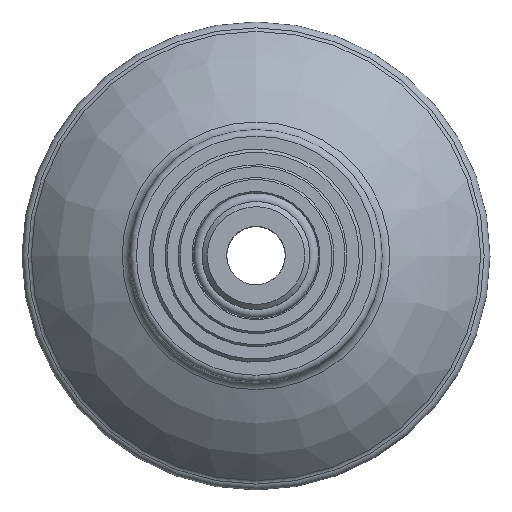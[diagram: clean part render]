
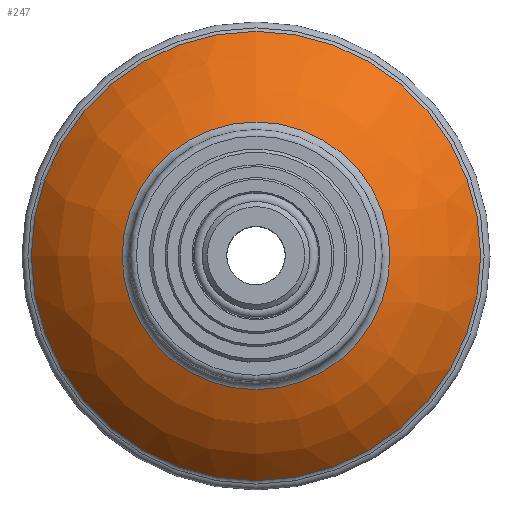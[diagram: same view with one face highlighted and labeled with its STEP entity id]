
A CAD part, top view. The second image highlights one B-rep face of the part: STEP entity #247.
In plain terms, the highlighted free-form (B-spline) face has degree [3, 3] with [4, 7] control points.
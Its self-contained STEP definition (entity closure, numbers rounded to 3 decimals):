
#247 = ADVANCED_FACE( '', ( #535, #536 ), #537, .T. );
#535 = FACE_OUTER_BOUND( '', #877, .T. );
#536 = FACE_OUTER_BOUND( '', #878, .T. );
#537 = ( BOUNDED_SURFACE(  )B_SPLINE_SURFACE( 3, 3, ( ( #881, #882, #883, #884, #885, #886, #887 ), ( #888, #889, #890, #891, #892, #893, #894 ), ( #895, #896, #897, #898, #899, #900, #901 ), ( #902, #903, #904, #905, #906, #907, #908 ) ), .UNSPECIFIED., .F., .T., .F. )B_SPLINE_SURFACE_WITH_KNOTS( ( 4, 4 ), ( 4, 3, 4 ), ( 0., 6.283 ), ( 0.667, 0.936, 1.206 ), .UNSPECIFIED. )GEOMETRIC_REPRESENTATION_ITEM(  )RATIONAL_B_SPLINE_SURFACE( ( ( 1., 0.333, 0.333, 1., 0.333, 0.333, 1. ), ( 0.976, 0.325, 0.325, 0.976, 0.325, 0.325, 0.976 ), ( 0.976, 0.325, 0.325, 0.976, 0.325, 0.325, 0.976 ), ( 1., 0.333, 0.333, 1., 0.333, 0.333, 1. ) ) )REPRESENTATION_ITEM( '' )SURFACE(  ) );
#877 = EDGE_LOOP( '', ( #1353 ) );
#878 = EDGE_LOOP( '', ( #1354 ) );
#881 = CARTESIAN_POINT( '', ( 20.59, 0., -3.808 ) );
#882 = CARTESIAN_POINT( '', ( 20.59, 41.18, -3.808 ) );
#883 = CARTESIAN_POINT( '', ( -20.59, 41.18, -3.808 ) );
#884 = CARTESIAN_POINT( '', ( -20.59, 0., -3.808 ) );
#885 = CARTESIAN_POINT( '', ( -20.59, -41.18, -3.808 ) );
#886 = CARTESIAN_POINT( '', ( 20.59, -41.18, -3.808 ) );
#887 = CARTESIAN_POINT( '', ( 20.59, 0., -3.808 ) );
#888 = CARTESIAN_POINT( '', ( 26.122, 0., -5.922 ) );
#889 = CARTESIAN_POINT( '', ( 26.122, 52.244, -5.922 ) );
#890 = CARTESIAN_POINT( '', ( -26.122, 52.244, -5.922 ) );
#891 = CARTESIAN_POINT( '', ( -26.122, 0., -5.922 ) );
#892 = CARTESIAN_POINT( '', ( -26.122, -52.244, -5.922 ) );
#893 = CARTESIAN_POINT( '', ( 26.122, -52.244, -5.922 ) );
#894 = CARTESIAN_POINT( '', ( 26.122, 0., -5.922 ) );
#895 = CARTESIAN_POINT( '', ( 30.892, 0., -9.432 ) );
#896 = CARTESIAN_POINT( '', ( 30.892, 61.784, -9.432 ) );
#897 = CARTESIAN_POINT( '', ( -30.892, 61.784, -9.432 ) );
#898 = CARTESIAN_POINT( '', ( -30.892, 0., -9.432 ) );
#899 = CARTESIAN_POINT( '', ( -30.892, -61.784, -9.432 ) );
#900 = CARTESIAN_POINT( '', ( 30.892, -61.784, -9.432 ) );
#901 = CARTESIAN_POINT( '', ( 30.892, 0., -9.432 ) );
#902 = CARTESIAN_POINT( '', ( 34.556, 0., -14.085 ) );
#903 = CARTESIAN_POINT( '', ( 34.556, 69.112, -14.085 ) );
#904 = CARTESIAN_POINT( '', ( -34.556, 69.112, -14.085 ) );
#905 = CARTESIAN_POINT( '', ( -34.556, 0., -14.085 ) );
#906 = CARTESIAN_POINT( '', ( -34.556, -69.112, -14.085 ) );
#907 = CARTESIAN_POINT( '', ( 34.556, -69.112, -14.085 ) );
#908 = CARTESIAN_POINT( '', ( 34.556, 0., -14.085 ) );
#1353 = ORIENTED_EDGE( '', *, *, #1445, .F. );
#1354 = ORIENTED_EDGE( '', *, *, #1538, .T. );
#1445 = EDGE_CURVE( '', #1599, #1599, #1600, .T. );
#1538 = EDGE_CURVE( '', #1742, #1742, #1743, .T. );
#1599 = VERTEX_POINT( '', #1810 );
#1600 = CIRCLE( '', #1811, 20.59 );
#1742 = VERTEX_POINT( '', #1953 );
#1743 = CIRCLE( '', #1954, 34.556 );
#1810 = CARTESIAN_POINT( '', ( 20.59, 0., -3.808 ) );
#1811 = AXIS2_PLACEMENT_3D( '', #2026, #2027, #2028 );
#1953 = CARTESIAN_POINT( '', ( 34.556, 0., -14.085 ) );
#1954 = AXIS2_PLACEMENT_3D( '', #2176, #2177, #2178 );
#2026 = CARTESIAN_POINT( '', ( 0., 0., -3.808 ) );
#2027 = DIRECTION( '', ( 0., 0., 1. ) );
#2028 = DIRECTION( '', ( 1., 0., 0. ) );
#2176 = CARTESIAN_POINT( '', ( 0., 0., -14.085 ) );
#2177 = DIRECTION( '', ( 0., 0., 1. ) );
#2178 = DIRECTION( '', ( 1., 0., 0. ) );
